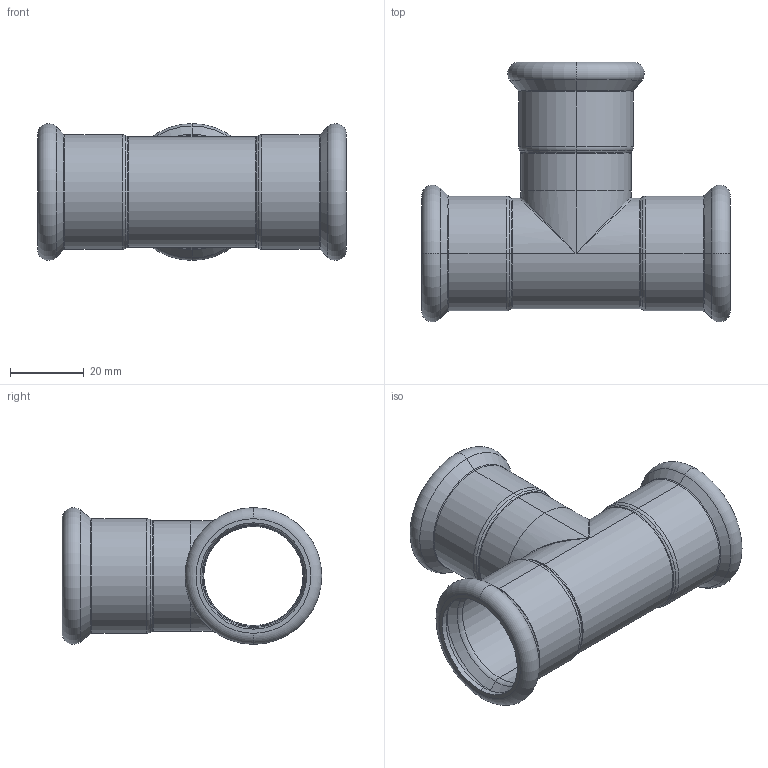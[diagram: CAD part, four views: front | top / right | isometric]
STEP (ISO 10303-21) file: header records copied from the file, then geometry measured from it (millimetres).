
FILE_DESCRIPTION (( 'STEP AP203' ), '1' );
FILE_NAME ('GDA5184.STEP', '2019-01-14T01:49:38', ( '' ), ( '' ), 'SwSTEP 2.0', 'SolidWorks 2015', '' );
FILE_SCHEMA (( 'CONFIG_CONTROL_DESIGN' ));
Length unit declared in the file: millimetre
Products named in the file (3): T-ｉ-01-28; T(R)-¢ñ-28¡Á28''; GDA5184
Assembly tree (2 placements, depth 2):
  GDA5184
    T(R)-¢ñ-28¡Á28''
    T-ｉ-01-28
Bounding box: 84 x 70.6 x 37.2 mm (x, y, z)
Volume: 17898.9 mm3; surface area: 24546 mm2
Topology: 2 solids, 2 shells, 115 faces, 235 edges, 120 vertices
Faces by surface type: torus 48, cylinder 32, cone 24, plane 8, bspline 3
Entity records: 3551 total; most frequent: CARTESIAN_POINT 793, DIRECTION 620, ORIENTED_EDGE 458, AXIS2_PLACEMENT_3D 281, EDGE_CURVE 229, CIRCLE 164, EDGE_LOOP 123, VERTEX_POINT 120
